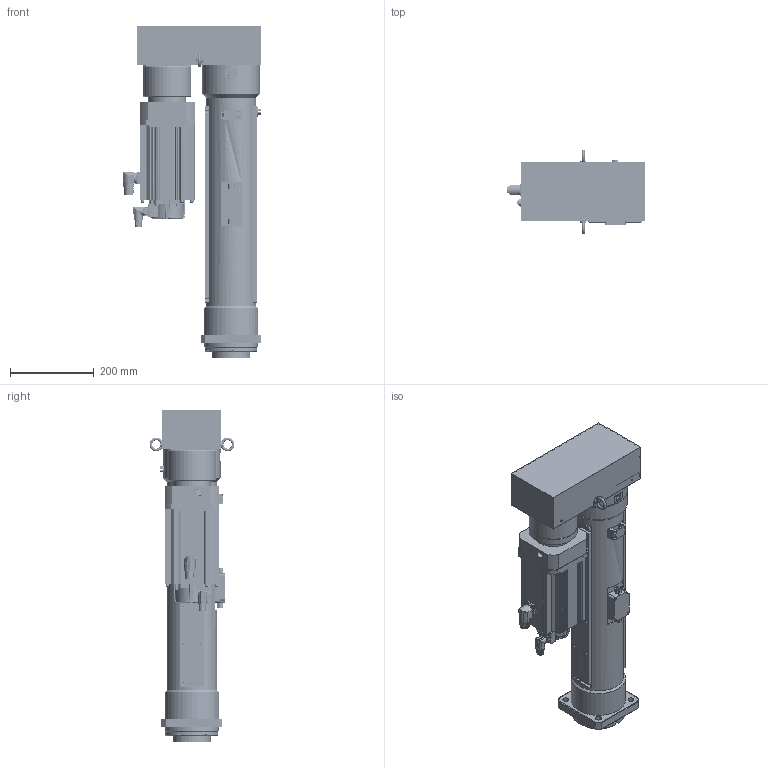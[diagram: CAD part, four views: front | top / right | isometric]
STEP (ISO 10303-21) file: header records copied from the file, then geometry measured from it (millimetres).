
FILE_DESCRIPTION( ('This file contains a STEP AP42 implementation' ,'as created by ZW3D STEP Interface translator.') ,'2;1' );
FILE_NAME( 'OACIS-P035-P040-400-195-A6V400_V20.51.stp' ,'26 422.161738', (''), ('ZWCAD Software Co.'), 'Version 1.0', 'ZW3D to STEP translator', '' );
FILE_SCHEMA(('AUTOMOTIVE_DESIGN { 1 0 10303 214 1 1 1 1 }'));
Length unit declared in the file: millimetre
Products named in the file (1): 0
Bounding box: 331 x 202.25 x 791 mm (x, y, z)
Volume: 13529135.5 mm3; surface area: 2135967.9 mm2
Topology: 58 solids, 58 shells, 3800 faces, 9687 edges, 6209 vertices
Faces by surface type: cylinder 1789, plane 1471, cone 378, torus 107, bspline 43, sphere 12
Full cylindrical faces by diameter (mm): 1.25 x12, 1.567 x4, 2 x1, 2.232 x6, 2.459 x1, 2.8 x1, 3.242 x3, 3.3 x83, 4.2 x4, 4.3 x26, 4.5 x14, 4.917 x20, 5 x1, 5.3 x4, 5.5 x5, 6 x12, 6.647 x6, 6.8 x41, 7 x4, 8 x32, 8.4 x8, 8.5 x4, 9 x26, 9.5 x4, 9.78 x8, 10 x7, 10.104 x4, 10.106 x1, 10.2 x16, 10.5 x4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
Entity records: 124973 total; most frequent: CARTESIAN_POINT 22560, DIRECTION 21509, ORIENTED_EDGE 19166, EDGE_CURVE 9583, AXIS2_PLACEMENT_3D 8514, VERTEX_POINT 6206, CIRCLE 4727, EDGE_LOOP 4495
